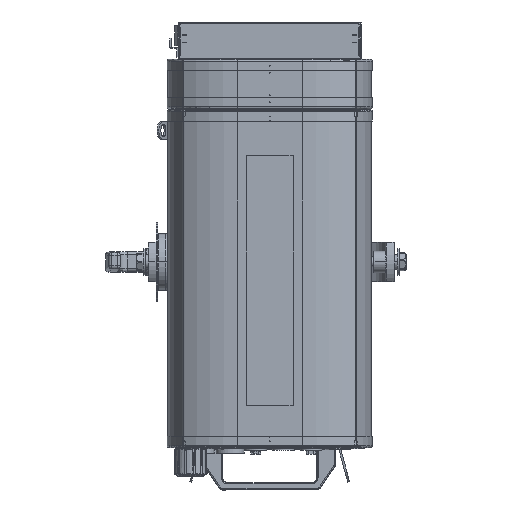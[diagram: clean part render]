
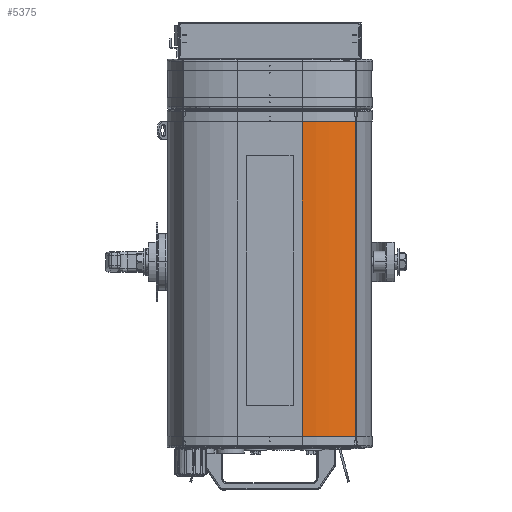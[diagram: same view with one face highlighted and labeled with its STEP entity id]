
A CAD part, front view. The second image highlights one B-rep face of the part: STEP entity #5375.
In plain terms, the highlighted cylindrical face has radius 103 mm (diameter 206 mm), a partial arc.
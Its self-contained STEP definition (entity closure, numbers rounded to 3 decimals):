
#1036 = CARTESIAN_POINT ( 'NONE',  ( -206.251, -38.635, 472.434 ) ) ;
#2104 = VERTEX_POINT ( 'NONE', #196323 ) ;
#5375 = ADVANCED_FACE ( 'NONE', ( #20637 ), #125834, .T. ) ;
#7857 = EDGE_CURVE ( 'NONE', #246432, #201800, #247401, .T. ) ;
#7938 = CARTESIAN_POINT ( 'NONE',  ( -152.995, -126.799, 291.5 ) ) ;
#13518 = CARTESIAN_POINT ( 'NONE',  ( -153.83, -127.297, 292.764 ) ) ;
#20637 = FACE_OUTER_BOUND ( 'NONE', #251096, .T. ) ;
#27259 = DIRECTION ( 'NONE',  ( -1., 0., 0. ) ) ;
#30381 = CARTESIAN_POINT ( 'NONE',  ( -153.291, -126.977, 291.775 ) ) ;
#34542 = CARTESIAN_POINT ( 'NONE',  ( -153.926, -127.354, 293.342 ) ) ;
#35819 = CARTESIAN_POINT ( 'NONE',  ( -153.541, -127.126, -37.127 ) ) ;
#36649 = EDGE_CURVE ( 'NONE', #215795, #123792, #44969, .T. ) ;
#37833 = EDGE_CURVE ( 'NONE', #168759, #2104, #246768, .T. ) ;
#37910 = AXIS2_PLACEMENT_3D ( 'NONE', #156280, #157684, #27259 ) ;
#44969 = B_SPLINE_CURVE_WITH_KNOTS ( 'NONE', 3,
 ( #153791, #119912, #184521, #268735, #55479, #141046, #139625, #80638, #35819, #101686, #75160, #142418, #121315, #226623, #96155, #162096 ),
 .UNSPECIFIED., .F., .F.,
 ( 4, 2, 2, 2, 2, 2, 2, 4 ),
 ( 0., 0.001, 0.001, 0.002, 0.002, 0.003, 0.003, 0.004 ),
 .UNSPECIFIED. ) ;
#47694 = VECTOR ( 'NONE', #121018, 1000. ) ;
#49298 = CARTESIAN_POINT ( 'NONE',  ( -153.926, -127.354, -42.51 ) ) ;
#52851 = CARTESIAN_POINT ( 'NONE',  ( -152.549, -126.528, 291.225 ) ) ;
#55479 = CARTESIAN_POINT ( 'NONE',  ( -152.993, -126.798, -36.518 ) ) ;
#55924 = DIRECTION ( 'NONE',  ( 0., 0., -1. ) ) ;
#56056 = EDGE_CURVE ( 'NONE', #2104, #178367, #102500, .T. ) ;
#69900 = ORIENTED_EDGE ( 'NONE', *, *, #37833, .F. ) ;
#73867 = CARTESIAN_POINT ( 'NONE',  ( -152.304, -126.378, 291.14 ) ) ;
#74485 = VECTOR ( 'NONE', #134061, 1000. ) ;
#75160 = CARTESIAN_POINT ( 'NONE',  ( -153.735, -127.241, -37.508 ) ) ;
#76231 = EDGE_CURVE ( 'NONE', #132542, #201800, #128496, .T. ) ;
#76637 = CARTESIAN_POINT ( 'NONE',  ( -153.542, -127.127, 292.11 ) ) ;
#80638 = CARTESIAN_POINT ( 'NONE',  ( -153.464, -127.08, -37.01 ) ) ;
#84967 = EDGE_CURVE ( 'NONE', #178367, #215795, #245836, .T. ) ;
#95099 = ORIENTED_EDGE ( 'NONE', *, *, #36649, .F. ) ;
#96155 = CARTESIAN_POINT ( 'NONE',  ( -153.926, -127.354, -38.362 ) ) ;
#97646 = CARTESIAN_POINT ( 'NONE',  ( -153.678, -127.207, 292.358 ) ) ;
#101686 = CARTESIAN_POINT ( 'NONE',  ( -153.676, -127.207, -37.375 ) ) ;
#102500 = B_SPLINE_CURVE_WITH_KNOTS ( 'NONE', 3,
 ( #142534, #34542, #266052, #120025, #13518, #115812, #97646, #76637, #270203, #30381, #180426, #7938, #117206, #52851, #73867, #201491 ),
 .UNSPECIFIED., .F., .F.,
 ( 4, 2, 2, 2, 2, 2, 2, 4 ),
 ( 0., 0., 0.001, 0.001, 0.002, 0.002, 0.003, 0.004 ),
 .UNSPECIFIED. ) ;
#113845 = CARTESIAN_POINT ( 'NONE',  ( -152.052, -126.222, 297.49 ) ) ;
#115812 = CARTESIAN_POINT ( 'NONE',  ( -153.735, -127.241, 292.489 ) ) ;
#116804 = CARTESIAN_POINT ( 'NONE',  ( -206.251, -141.635, 297.49 ) ) ;
#117206 = CARTESIAN_POINT ( 'NONE',  ( -152.886, -126.733, 291.422 ) ) ;
#118972 = EDGE_CURVE ( 'NONE', #123792, #132542, #198557, .T. ) ;
#119912 = CARTESIAN_POINT ( 'NONE',  ( -152.304, -126.378, -36.159 ) ) ;
#120025 = CARTESIAN_POINT ( 'NONE',  ( -153.866, -127.319, 292.907 ) ) ;
#120446 = CARTESIAN_POINT ( 'NONE',  ( -206.251, -38.635, -42.51 ) ) ;
#121018 = DIRECTION ( 'NONE',  ( 0., 0., -1. ) ) ;
#121315 = CARTESIAN_POINT ( 'NONE',  ( -153.865, -127.318, -37.923 ) ) ;
#123792 = VERTEX_POINT ( 'NONE', #239352 ) ;
#125834 = CYLINDRICAL_SURFACE ( 'NONE', #178128, 103. ) ;
#128496 = CIRCLE ( 'NONE', #262966, 103. ) ;
#132542 = VERTEX_POINT ( 'NONE', #49298 ) ;
#134061 = DIRECTION ( 'NONE',  ( 0., 0., -1. ) ) ;
#139157 = DIRECTION ( 'NONE',  ( 0., 0., -1. ) ) ;
#139625 = CARTESIAN_POINT ( 'NONE',  ( -153.29, -126.976, -36.793 ) ) ;
#141046 = CARTESIAN_POINT ( 'NONE',  ( -153.195, -126.919, -36.694 ) ) ;
#141551 = DIRECTION ( 'NONE',  ( 0., 0., -1. ) ) ;
#142418 = CARTESIAN_POINT ( 'NONE',  ( -153.829, -127.297, -37.782 ) ) ;
#142534 = CARTESIAN_POINT ( 'NONE',  ( -153.926, -127.354, 293.49 ) ) ;
#145668 = ORIENTED_EDGE ( 'NONE', *, *, #118972, .F. ) ;
#148562 = ORIENTED_EDGE ( 'NONE', *, *, #56056, .F. ) ;
#151074 = DIRECTION ( 'NONE',  ( -1., 0., 0. ) ) ;
#153791 = CARTESIAN_POINT ( 'NONE',  ( -152.052, -126.222, -36.125 ) ) ;
#154551 = EDGE_CURVE ( 'NONE', #246432, #168759, #217044, .T. ) ;
#156280 = CARTESIAN_POINT ( 'NONE',  ( -206.251, -38.635, 297.49 ) ) ;
#157684 = DIRECTION ( 'NONE',  ( 0., 0., 1. ) ) ;
#161234 = VECTOR ( 'NONE', #139157, 1000. ) ;
#162096 = CARTESIAN_POINT ( 'NONE',  ( -153.926, -127.354, -38.51 ) ) ;
#165016 = ORIENTED_EDGE ( 'NONE', *, *, #154551, .F. ) ;
#167722 = CARTESIAN_POINT ( 'NONE',  ( -152.052, -126.222, -36.125 ) ) ;
#168759 = VERTEX_POINT ( 'NONE', #212790 ) ;
#172105 = DIRECTION ( 'NONE',  ( 0., 0., -1. ) ) ;
#174778 = CARTESIAN_POINT ( 'NONE',  ( -153.926, -127.354, 472.434 ) ) ;
#178128 = AXIS2_PLACEMENT_3D ( 'NONE', #1036, #172105, #151074 ) ;
#178367 = VERTEX_POINT ( 'NONE', #212278 ) ;
#180426 = CARTESIAN_POINT ( 'NONE',  ( -153.197, -126.921, 291.677 ) ) ;
#184521 = CARTESIAN_POINT ( 'NONE',  ( -152.545, -126.526, -36.242 ) ) ;
#196323 = CARTESIAN_POINT ( 'NONE',  ( -153.926, -127.354, 293.49 ) ) ;
#198020 = VECTOR ( 'NONE', #55924, 1000. ) ;
#198557 = LINE ( 'NONE', #174778, #74485 ) ;
#201491 = CARTESIAN_POINT ( 'NONE',  ( -152.052, -126.222, 291.106 ) ) ;
#201800 = VERTEX_POINT ( 'NONE', #204082 ) ;
#204082 = CARTESIAN_POINT ( 'NONE',  ( -206.251, -141.635, -42.51 ) ) ;
#212278 = CARTESIAN_POINT ( 'NONE',  ( -152.052, -126.222, 291.106 ) ) ;
#212790 = CARTESIAN_POINT ( 'NONE',  ( -153.926, -127.354, 297.49 ) ) ;
#212842 = ORIENTED_EDGE ( 'NONE', *, *, #84967, .F. ) ;
#215795 = VERTEX_POINT ( 'NONE', #167722 ) ;
#217044 = CIRCLE ( 'NONE', #37910, 103. ) ;
#226623 = CARTESIAN_POINT ( 'NONE',  ( -153.913, -127.347, -38.212 ) ) ;
#226658 = ORIENTED_EDGE ( 'NONE', *, *, #76231, .F. ) ;
#239241 = CARTESIAN_POINT ( 'NONE',  ( -206.251, -141.635, 297.49 ) ) ;
#239352 = CARTESIAN_POINT ( 'NONE',  ( -153.926, -127.354, -38.51 ) ) ;
#245368 = CARTESIAN_POINT ( 'NONE',  ( -153.926, -127.354, 472.434 ) ) ;
#245836 = LINE ( 'NONE', #113845, #161234 ) ;
#246432 = VERTEX_POINT ( 'NONE', #239241 ) ;
#246768 = LINE ( 'NONE', #245368, #198020 ) ;
#247401 = LINE ( 'NONE', #116804, #47694 ) ;
#251096 = EDGE_LOOP ( 'NONE', ( #148562, #69900, #165016, #264497, #226658, #145668, #95099, #212842 ) ) ;
#262966 = AXIS2_PLACEMENT_3D ( 'NONE', #120446, #141551, #269241 ) ;
#264497 = ORIENTED_EDGE ( 'NONE', *, *, #7857, .T. ) ;
#266052 = CARTESIAN_POINT ( 'NONE',  ( -153.913, -127.347, 293.195 ) ) ;
#268735 = CARTESIAN_POINT ( 'NONE',  ( -152.886, -126.733, -36.441 ) ) ;
#269241 = DIRECTION ( 'NONE',  ( -1., 0., 0. ) ) ;
#270203 = CARTESIAN_POINT ( 'NONE',  ( -153.463, -127.08, 291.991 ) ) ;
